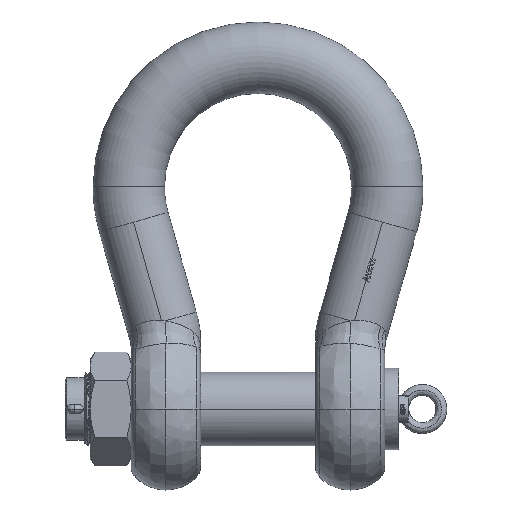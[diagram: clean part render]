
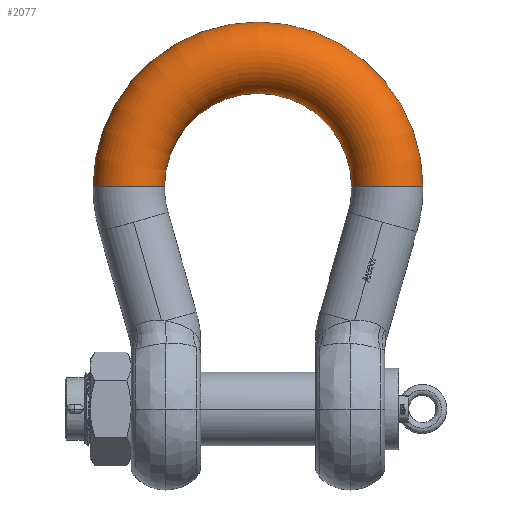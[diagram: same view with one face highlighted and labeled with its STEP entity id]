
A CAD part, front view. The second image highlights one B-rep face of the part: STEP entity #2077.
In plain terms, the highlighted toroidal (fillet/blend) face has major radius 190 mm and minor radius 52.495 mm.
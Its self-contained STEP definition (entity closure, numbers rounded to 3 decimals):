
#2077=ADVANCED_FACE('',(#4978),#4979,.T.);
#4978=FACE_OUTER_BOUND('',#10685,.T.);
#4979=TOROIDAL_SURFACE('',#10686,190.0,52.495);
#10685=EDGE_LOOP('',(#33416,#33417,#33418,#33419));
#10686=AXIS2_PLACEMENT_3D('',#33420,#33421,#33422);
#33416=ORIENTED_EDGE('',*,*,#44556,.T.);
#33417=ORIENTED_EDGE('',*,*,#44557,.F.);
#33418=ORIENTED_EDGE('',*,*,#44558,.T.);
#33419=ORIENTED_EDGE('',*,*,#44399,.F.);
#33420=CARTESIAN_POINT('',(0.0,0.0,326.5));
#33421=DIRECTION('',(0.0,-1.0,0.0));
#33422=DIRECTION('',(1.0,0.0,0.0));
#44399=EDGE_CURVE('',#51207,#51206,#51209,.F.);
#44556=EDGE_CURVE('',#51207,#51437,#51438,.F.);
#44557=EDGE_CURVE('',#51439,#51437,#51440,.T.);
#44558=EDGE_CURVE('',#51439,#51206,#51441,.T.);
#51206=VERTEX_POINT('',#64473);
#51207=VERTEX_POINT('',#64474);
#51209=CIRCLE('',#64476,52.495);
#51437=VERTEX_POINT('',#65032);
#51438=CIRCLE('',#65033,137.505);
#51439=VERTEX_POINT('',#65034);
#51440=B_SPLINE_CURVE_WITH_KNOTS('',5,(#65035,#65036,#65037,#65038,#65039,#65040,#65041,#65042,#65043,#65044,#65045,#65046,#65047,#65048,#65049,#65050,#65051,#65052,#65053,#65054,#65055,#65056,#65057,#65058),.UNSPECIFIED.,.F.,.F.,(6,3,3,3,3,3,3,6),(0.,35.138,70.275,105.413,140.551,175.689,210.826,233.227),.UNSPECIFIED.);
#51441=CIRCLE('',#65059,242.495);
#64473=CARTESIAN_POINT('',(-242.495,0.0,326.5));
#64474=CARTESIAN_POINT('',(-137.505,0.,326.5));
#64476=AXIS2_PLACEMENT_3D('',#93029,#93030,#93031);
#65032=CARTESIAN_POINT('',(137.505,0.,326.5));
#65033=AXIS2_PLACEMENT_3D('',#93040,#93041,#93042);
#65034=CARTESIAN_POINT('',(242.495,0.0,326.5));
#65035=CARTESIAN_POINT('',(242.495,0.,326.5));
#65036=CARTESIAN_POINT('',(242.495,-4.969,326.5));
#65037=CARTESIAN_POINT('',(241.907,-9.938,326.5));
#65038=CARTESIAN_POINT('',(240.731,-14.815,326.5));
#65039=CARTESIAN_POINT('',(237.247,-24.197,326.5));
#65040=CARTESIAN_POINT('',(231.67,-32.507,326.5));
#65041=CARTESIAN_POINT('',(228.401,-36.311,326.5));
#65042=CARTESIAN_POINT('',(221.023,-43.074,326.5));
#65043=CARTESIAN_POINT('',(212.272,-47.928,326.5));
#65044=CARTESIAN_POINT('',(207.627,-49.824,326.5));
#65045=CARTESIAN_POINT('',(197.978,-52.48,326.5));
#65046=CARTESIAN_POINT('',(187.976,-52.811,326.5));
#65047=CARTESIAN_POINT('',(182.978,-52.381,326.5));
#65048=CARTESIAN_POINT('',(173.179,-50.347,326.5));
#65049=CARTESIAN_POINT('',(164.125,-46.083,326.5));
#65050=CARTESIAN_POINT('',(159.873,-43.422,326.5));
#65051=CARTESIAN_POINT('',(152.078,-37.145,326.5));
#65052=CARTESIAN_POINT('',(145.964,-29.222,326.5));
#65053=CARTESIAN_POINT('',(143.392,-24.915,326.5));
#65054=CARTESIAN_POINT('',(140.054,-17.432,326.5));
#65055=CARTESIAN_POINT('',(138.222,-9.48,326.5));
#65056=CARTESIAN_POINT('',(137.744,-6.336,326.5));
#65057=CARTESIAN_POINT('',(137.505,-3.168,326.5));
#65058=CARTESIAN_POINT('',(137.505,0.,326.5));
#65059=AXIS2_PLACEMENT_3D('',#93043,#93044,#93045);
#93029=CARTESIAN_POINT('',(-190.0,0.0,326.5));
#93030=DIRECTION('',(0.,0.0,1.0));
#93031=DIRECTION('',(-1.0,0.0,0.));
#93040=CARTESIAN_POINT('',(0.0,0.,326.5));
#93041=DIRECTION('',(0.0,-1.0,0.0));
#93042=DIRECTION('',(-1.0,0.0,0.0));
#93043=CARTESIAN_POINT('',(0.0,0.,326.5));
#93044=DIRECTION('',(0.0,-1.0,0.0));
#93045=DIRECTION('',(-1.0,0.0,0.0));
